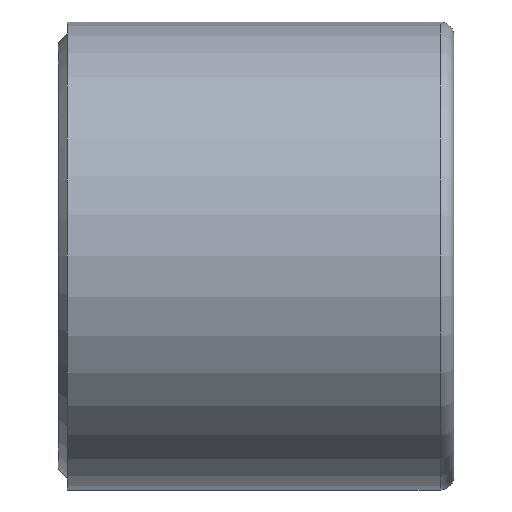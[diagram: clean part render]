
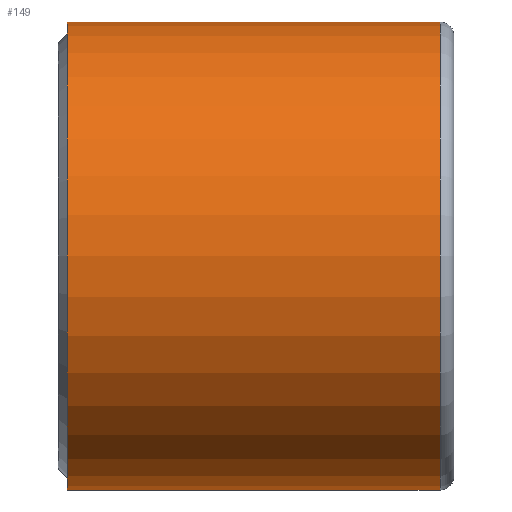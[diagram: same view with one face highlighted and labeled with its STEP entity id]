
A CAD part, front view. The second image highlights one B-rep face of the part: STEP entity #149.
In plain terms, the highlighted cylindrical face has radius 32.118 mm (diameter 64.237 mm), a partial arc.
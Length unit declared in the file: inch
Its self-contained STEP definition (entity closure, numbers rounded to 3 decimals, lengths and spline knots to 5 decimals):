
#11 = VERTEX_POINT ( 'NONE', #177 ) ;
#19 = CARTESIAN_POINT ( 'NONE',  ( 2.06424, 0., -1.2645 ) ) ;
#33 = LINE ( 'NONE', #618, #591 ) ;
#57 = CARTESIAN_POINT ( 'NONE',  ( 0.04874, 0., -1.2645 ) ) ;
#67 = VERTEX_POINT ( 'NONE', #399 ) ;
#135 = LINE ( 'NONE', #437, #360 ) ;
#149 = ADVANCED_FACE ( 'NONE', ( #855 ), #931, .T. ) ;
#162 = AXIS2_PLACEMENT_3D ( 'NONE', #273, #638, #793 ) ;
#177 = CARTESIAN_POINT ( 'NONE',  ( 2.06424, 0., 1.2645 ) ) ;
#186 = ORIENTED_EDGE ( 'NONE', *, *, #225, .F. ) ;
#208 = CIRCLE ( 'NONE', #652, 1.2645 ) ;
#225 = EDGE_CURVE ( 'NONE', #608, #67, #208, .T. ) ;
#273 = CARTESIAN_POINT ( 'NONE',  ( 0., 0., 0. ) ) ;
#288 = CARTESIAN_POINT ( 'NONE',  ( 2.06424, 0., 0. ) ) ;
#335 = EDGE_CURVE ( 'NONE', #11, #67, #33, .T. ) ;
#360 = VECTOR ( 'NONE', #881, 39.37008 ) ;
#399 = CARTESIAN_POINT ( 'NONE',  ( 0.04874, 0., 1.2645 ) ) ;
#437 = CARTESIAN_POINT ( 'NONE',  ( 0., 0., -1.2645 ) ) ;
#444 = DIRECTION ( 'NONE',  ( -1., 0., 0. ) ) ;
#473 = EDGE_CURVE ( 'NONE', #656, #11, #569, .T. ) ;
#510 = DIRECTION ( 'NONE',  ( 0., 0., 1. ) ) ;
#566 = EDGE_CURVE ( 'NONE', #656, #608, #135, .T. ) ;
#569 = CIRCLE ( 'NONE', #636, 1.2645 ) ;
#590 = EDGE_LOOP ( 'NONE', ( #717, #742, #617, #186 ) ) ;
#591 = VECTOR ( 'NONE', #929, 39.37008 ) ;
#592 = DIRECTION ( 'NONE',  ( 0., 0., 1. ) ) ;
#608 = VERTEX_POINT ( 'NONE', #57 ) ;
#617 = ORIENTED_EDGE ( 'NONE', *, *, #335, .T. ) ;
#618 = CARTESIAN_POINT ( 'NONE',  ( 0., 0., 1.2645 ) ) ;
#636 = AXIS2_PLACEMENT_3D ( 'NONE', #288, #444, #510 ) ;
#638 = DIRECTION ( 'NONE',  ( -1., 0., 0. ) ) ;
#652 = AXIS2_PLACEMENT_3D ( 'NONE', #950, #816, #592 ) ;
#656 = VERTEX_POINT ( 'NONE', #19 ) ;
#717 = ORIENTED_EDGE ( 'NONE', *, *, #566, .F. ) ;
#742 = ORIENTED_EDGE ( 'NONE', *, *, #473, .T. ) ;
#793 = DIRECTION ( 'NONE',  ( 0., 0., 1. ) ) ;
#816 = DIRECTION ( 'NONE',  ( -1., 0., 0. ) ) ;
#855 = FACE_OUTER_BOUND ( 'NONE', #590, .T. ) ;
#881 = DIRECTION ( 'NONE',  ( -1., 0., 0. ) ) ;
#929 = DIRECTION ( 'NONE',  ( -1., 0., 0. ) ) ;
#931 = CYLINDRICAL_SURFACE ( 'NONE', #162, 1.2645 ) ;
#950 = CARTESIAN_POINT ( 'NONE',  ( 0.04874, 0., 0. ) ) ;
